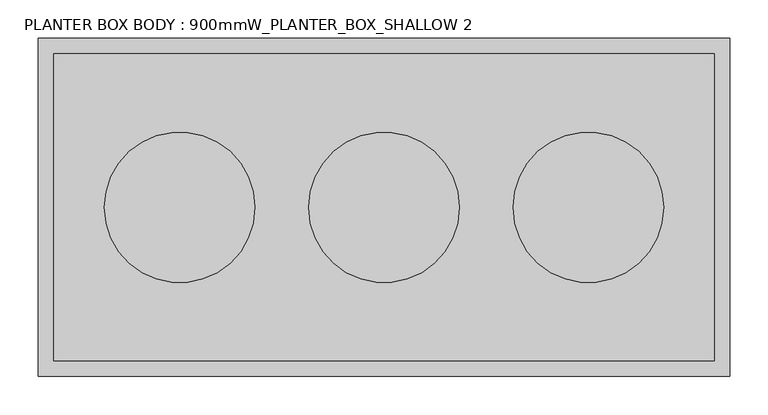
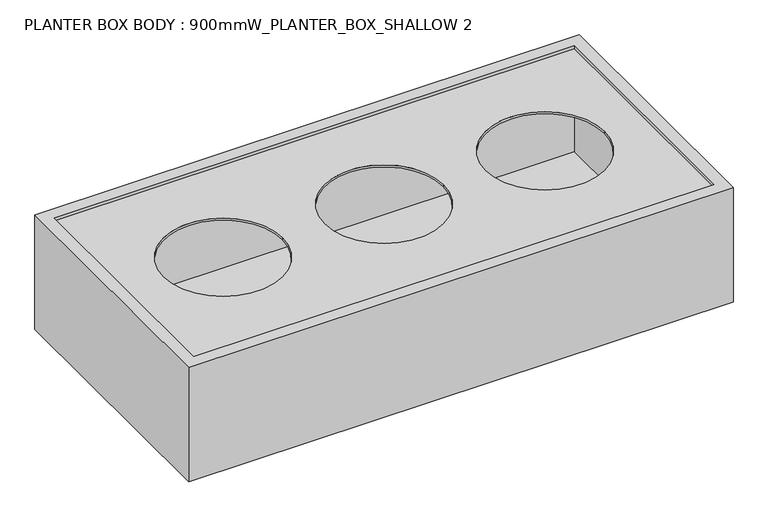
"""IFC4 building model written with IfcOpenShell, lengths in millimetres: furniture geometry, PLANTER BOX BODY : 900mmW_PLANTER_BOX_SHALLOW 2."""

from ifc_helpers import new_model, si_unit, point, frame, frame_2d, origin, origin_2d, place, context, project, spatial, polyline, circle_curve, trimmed, segment, composite_curve, outline, extrude, source, transform, mapped, element, save


def planter_box_body_900mmw_planter_box_shallow_2_289f2937(model_context):
    return source(origin(), model_context, "Body", "SweptSolid", [
        extrude(outline(polyline([(450.0, 220.0), (450.0, -220.0), (-450.0, -220.0), (-450.0, 220.0), (450.0, 220.0)]), holes=[polyline([(-430.0, 200.0), (-430.0, -200.0), (430.0, -200.0), (430.0, 200.0), (-430.0, 200.0)])]), frame((0.0, 0.0, 195.0), z_axis=(0.0, 0.0, 1.0), x_axis=(1.0, 0.0, 0.0)), (0.0, 0.0, 1.0), 200.0),
        extrude(outline(polyline([(430.0, 200.0), (430.0, -200.0), (-430.0, -200.0), (-430.0, 200.0), (430.0, 200.0)])), frame((0.0, 0.0, 195.0), z_axis=(0.0, 0.0, 1.0), x_axis=(1.0, 0.0, 0.0)), (0.0, 0.0, 1.0), 15.0),
        extrude(outline(polyline([(430.0, 200.0), (430.0, -200.0), (-430.0, -200.0), (-430.0, 200.0), (430.0, 200.0)]), holes=[composite_curve([segment(trimmed(circle_curve(origin_2d(), 98.0), [point((-98.0, 0.0))], [point((98.0, 0.0))], True, "CARTESIAN"), True, "CONTINUOUS"), segment(trimmed(circle_curve(origin_2d(), 98.0), [point((98.0, 0.0))], [point((-98.0, 0.0))], True, "CARTESIAN"), True, "CONTINUOUS")], self_intersect=False), composite_curve([segment(trimmed(circle_curve(frame_2d((266.0, 0.0)), 98.0), [point((168.0, 0.0))], [point((364.0, 0.0))], True, "CARTESIAN"), True, "CONTINUOUS"), segment(trimmed(circle_curve(frame_2d((266.0, 0.0)), 98.0), [point((364.0, 0.0))], [point((168.0, 0.0))], True, "CARTESIAN"), True, "CONTINUOUS")], self_intersect=False), composite_curve([segment(trimmed(circle_curve(frame_2d((-266.0, 0.0)), 98.0), [point((-364.0, 0.0))], [point((-168.0, 0.0))], True, "CARTESIAN"), True, "CONTINUOUS"), segment(trimmed(circle_curve(frame_2d((-266.0, 0.0)), 98.0), [point((-168.0, 0.0))], [point((-364.0, 0.0))], True, "CARTESIAN"), True, "CONTINUOUS")], self_intersect=False)]), frame((0.0, 0.0, 386.4363245), z_axis=(0.0, 0.0, 1.0), x_axis=(1.0, 0.0, 0.0)), (0.0, 0.0, 1.0), 3.5636755),
    ])


if __name__ == "__main__":
    model = new_model("IFC4")
    model_context = context("Model", 3, world=origin())
    ifc_project = project(units=[si_unit("LENGTHUNIT", "METRE", prefix="MILLI")], contexts=[model_context])
    site = spatial("IfcSite", under=ifc_project)
    building = spatial("IfcBuilding", under=site)
    placement = place(None, origin())
    planter_box_body_900mmw_planter_box_shallow_2_shape = planter_box_body_900mmw_planter_box_shallow_2_289f2937(model_context)
    element("IfcFurniture", 1, ObjectType="PLANTER BOX BODY : 900mmW_PLANTER_BOX_SHALLOW 2", at=placement, inside=building, context=model_context, shape_type="MappedRepresentation", body=[
        mapped(planter_box_body_900mmw_planter_box_shallow_2_shape, transform((0.0, 0.0, 0.0), x_axis=(1.0, 0.0, 0.0), y_axis=(0.0, 1.0, 0.0), z_axis=(0.0, 0.0, 1.0))),
    ])
    save(model, "model.ifc")
